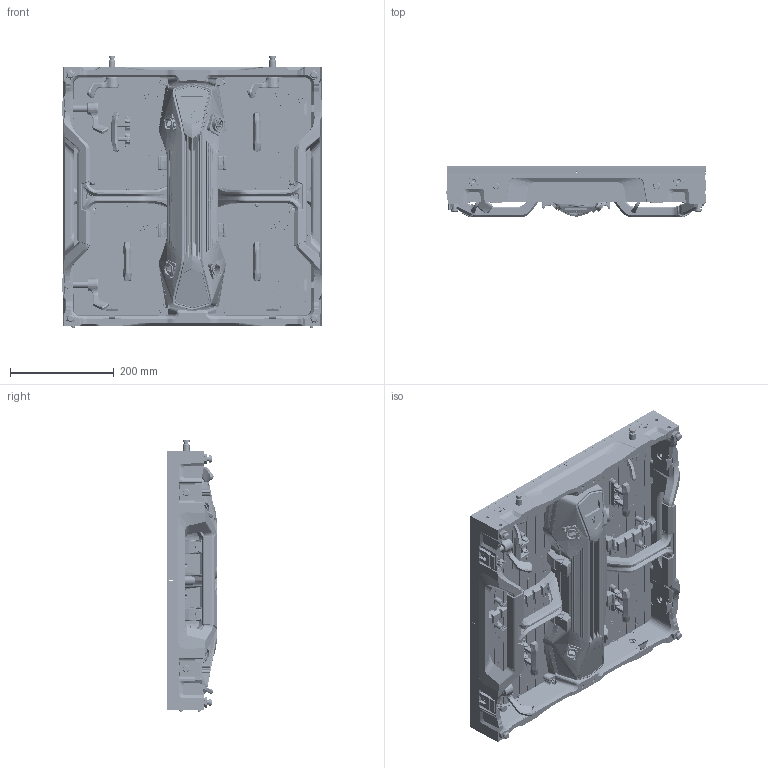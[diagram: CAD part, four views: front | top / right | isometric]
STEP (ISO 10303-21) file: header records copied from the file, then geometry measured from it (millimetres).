
FILE_DESCRIPTION(/* description */ ('LED-Modul'),/* implementation_level */ '2;1');
FILE_NAME(/* name */ 'C:\Users\Eimer1\Documents\Inventor\rX23\Index_01\STEPs\rX23.1000.000.01.MG_LED-Modul.stp',/* time_stamp */ '2017-01-30T16:58:41+01:00',/* author */ ('Eimer1'),/* organization */ (''),/* preprocessor_version */ 'ST-DEVELOPER v16.5',/* originating_system */ 'Autodesk Inventor 2017',/* authorisation */ '');
FILE_SCHEMA (('AUTOMOTIVE_DESIGN { 1 0 10303 214 3 1 1 }'));
Products named in the file (60): rX23.1000.000.01; rX23.1100.000.01; rX23.KUANGJIA_H; rX23.CTZ_ASM; rX23.CTZ; rX23.CT; rX23.CTB; rX23.LUODING; rX23.JIAOTA; rX23.BAOJIAO; rX23.CT4; rX23.HUJIAO; rX23.1200.000.01.MG_IM2; rX23.1200.000.01.MG_IM2_1; rX23.1200.000.01.MG_IM2_2; rX23_IM2.X2D9-HOUSING; rX23_IM2.X2D9-PCB; rX23_IM2.TISHOU_ASM; rX23_IM2.TISHOUZUO; rX23_IM2.M5TLM; rX23_IM2.THZS; rX23_IM2.TISHOUZHOU; rX23_IM2.IM-TISHOU; rX23_IM2.TONGZHU-DENGBAN_ASM; rX23_IM2.TONGZHU-DENGBAN; rX23_IM2.M2PMX4D5; rX23_IM2.MUCATAO; rX23_IM2.CXTIEBAN; rX23_IM2.CITIE-1; rX23_IM2.YAP; rX23.1400.000.01; rX23.HG; rX23.POWER; rX23.DIKE; rX23.DKS; rX23.ZJB; rX23.CT3; rX23.SUOPIAN; rX23.DINGWEITAO; rX23.ZHISHIDENG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
Assembly tree (211 placements, depth 4):
  rX23.1000.000.01
    rX23.1100.000.01
      rX23.KUANGJIA_H
      rX23.CTZ_ASM  x16
        rX23.CTZ
        rX23.CT
        rX23.CTB
      rX23.LUODING  x8
      rX23.JIAOTA
      rX23.BAOJIAO
      rX23.CT4  x4
      rX23.HUJIAO  x4
    rX23.1200.000.01.MG_IM2
      rX23_IM2.X2D9-HOUSING
      rX23_IM2.X2D9-PCB
      rX23_IM2.TISHOU_ASM
        rX23_IM2.TISHOUZUO
        rX23_IM2.M5TLM  x2
        rX23_IM2.THZS  x2
        rX23_IM2.TISHOUZHOU  x2
      rX23_IM2.IM-TISHOU
      rX23_IM2.TONGZHU-DENGBAN_ASM
        rX23_IM2.TONGZHU-DENGBAN
        rX23_IM2.M2PMX4D5
      rX23_IM2.MUCATAO  x4
      rX23_IM2.CXTIEBAN
      rX23_IM2.CITIE-1  x10
      rX23_IM2.YAP  x10
    rX23.1200.000.01.MG_IM2_1
      rX23_IM2.X2D9-HOUSING
      rX23_IM2.X2D9-PCB
      rX23_IM2.TISHOU_ASM
        rX23_IM2.TISHOUZUO
        rX23_IM2.M5TLM  x2
        rX23_IM2.THZS  x2
        rX23_IM2.TISHOUZHOU  x2
      rX23_IM2.IM-TISHOU
      rX23_IM2.TONGZHU-DENGBAN_ASM
        rX23_IM2.TONGZHU-DENGBAN
        rX23_IM2.M2PMX4D5
      rX23_IM2.MUCATAO  x4
      rX23_IM2.CXTIEBAN
      rX23_IM2.CITIE-1  x10
      rX23_IM2.YAP  x10
    rX23.1200.000.01.MG_IM2_2  x2
      rX23_IM2.X2D9-HOUSING
      rX23_IM2.X2D9-PCB
      rX23_IM2.TISHOU_ASM
        rX23_IM2.TISHOUZUO
        rX23_IM2.M5TLM  x2
        rX23_IM2.THZS  x2
        rX23_IM2.TISHOUZHOU  x2
      rX23_IM2.IM-TISHOU
      rX23_IM2.TONGZHU-DENGBAN_ASM
        rX23_IM2.TONGZHU-DENGBAN
        rX23_IM2.M2PMX4D5
      rX23_IM2.MUCATAO
      rX23_IM2.CXTIEBAN
      rX23_IM2.CITIE-1
      rX23_IM2.YAP
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Bounding box: 500.9 x 97.93 x 526 mm (x, y, z)
Volume: 3658261.6 mm3; surface area: 3016786.4 mm2
Topology: 295 solids, 311 shells, 26992 faces, 73445 edges, 47997 vertices
Faces by surface type: plane 14872, cylinder 6991, bspline 3857, cone 768, torus 376, sphere 128
Full cylindrical faces by diameter (mm): 0.5 x8, 1 x16, 1.2 x36, 1.4 x8, 1.45 x168, 1.5 x4, 1.6 x40, 1.75 x40, 1.8 x120, 2 x16, 2.5 x101, 2.6 x69, 2.8 x16, 2.9 x24, 3 x236, 3.2 x42, 3.3 x6, 3.4 x8, 3.5 x87, 3.8 x84, 4 x132, 4.2 x16, 4.5 x28, 4.8 x8, 5 x207, 5.1 x1, 5.2 x6, 5.4 x2, 5.5 x4, 5.6 x36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
Entity records: 590502 total; most frequent: CARTESIAN_POINT 335111, ORIENTED_EDGE 55770, DIRECTION 46709, EDGE_CURVE 27887, VERTEX_POINT 18598, AXIS2_PLACEMENT_3D 15927, LINE 14855, VECTOR 14855
